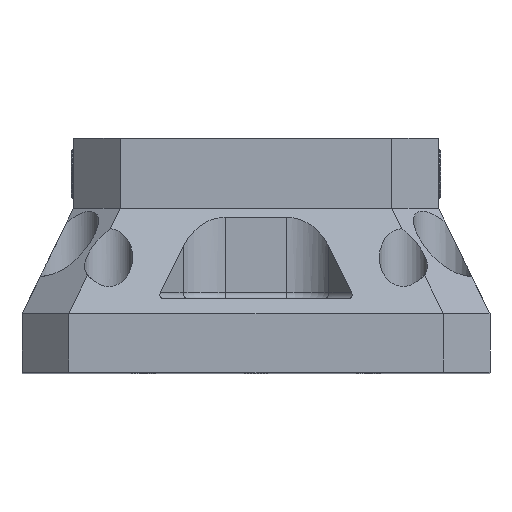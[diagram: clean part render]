
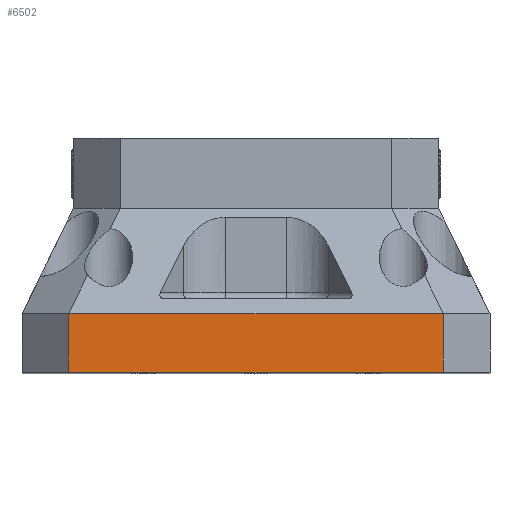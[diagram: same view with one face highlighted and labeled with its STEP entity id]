
A CAD part, top view. The second image highlights one B-rep face of the part: STEP entity #6502.
In plain terms, the highlighted planar face has unit normal (0, 0, 1) as drawn and (-1, 0, 0) by its records, which use the part's own axes.
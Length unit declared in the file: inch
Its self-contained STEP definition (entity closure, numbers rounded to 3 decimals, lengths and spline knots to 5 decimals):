
#1344 = VECTOR ( 'NONE', #39914, 39.37008 ) ;
#1460 = DIRECTION ( 'NONE',  ( 0., 0., -1. ) ) ;
#2497 = VERTEX_POINT ( 'NONE', #24439 ) ;
#3701 = CARTESIAN_POINT ( 'NONE',  ( -7.87402, 0., 3.14961 ) ) ;
#3938 = ORIENTED_EDGE ( 'NONE', *, *, #10786, .T. ) ;
#5785 = CARTESIAN_POINT ( 'NONE',  ( -7.87402, 0.98425, 3.93701 ) ) ;
#6502 = ADVANCED_FACE ( 'NONE', ( #57488 ), #14580, .F. ) ;
#8379 = EDGE_CURVE ( 'NONE', #25458, #2497, #42670, .T. ) ;
#10786 = EDGE_CURVE ( 'NONE', #39514, #66735, #65639, .T. ) ;
#12948 = CARTESIAN_POINT ( 'NONE',  ( -7.87402, 0., 3.93701 ) ) ;
#14580 = PLANE ( 'NONE',  #36556 ) ;
#14899 = CARTESIAN_POINT ( 'NONE',  ( -7.87402, 0., 3.14961 ) ) ;
#20347 = DIRECTION ( 'NONE',  ( 1., 0., 0. ) ) ;
#20423 = VECTOR ( 'NONE', #1460, 39.37008 ) ;
#24439 = CARTESIAN_POINT ( 'NONE',  ( -7.87402, 0., -3.14961 ) ) ;
#25458 = VERTEX_POINT ( 'NONE', #14899 ) ;
#28100 = ORIENTED_EDGE ( 'NONE', *, *, #64400, .T. ) ;
#28108 = VECTOR ( 'NONE', #37866, 39.37008 ) ;
#32630 = EDGE_CURVE ( 'NONE', #66735, #2497, #42541, .T. ) ;
#35685 = ORIENTED_EDGE ( 'NONE', *, *, #8379, .F. ) ;
#36229 = DIRECTION ( 'NONE',  ( 0., -1., 0. ) ) ;
#36556 = AXIS2_PLACEMENT_3D ( 'NONE', #42962, #20347, #60244 ) ;
#37866 = DIRECTION ( 'NONE',  ( 0., 1., 0. ) ) ;
#39514 = VERTEX_POINT ( 'NONE', #59837 ) ;
#39914 = DIRECTION ( 'NONE',  ( 0., 0., -1. ) ) ;
#41776 = CARTESIAN_POINT ( 'NONE',  ( -7.87402, 0.98425, -3.14961 ) ) ;
#41931 = CARTESIAN_POINT ( 'NONE',  ( -7.87402, 0., -3.14961 ) ) ;
#42541 = LINE ( 'NONE', #41931, #71180 ) ;
#42670 = LINE ( 'NONE', #12948, #20423 ) ;
#42962 = CARTESIAN_POINT ( 'NONE',  ( -7.87402, 0., 3.93701 ) ) ;
#54371 = ORIENTED_EDGE ( 'NONE', *, *, #32630, .T. ) ;
#57488 = FACE_OUTER_BOUND ( 'NONE', #57790, .T. ) ;
#57790 = EDGE_LOOP ( 'NONE', ( #3938, #54371, #35685, #28100 ) ) ;
#59837 = CARTESIAN_POINT ( 'NONE',  ( -7.87402, 0.98425, 3.14961 ) ) ;
#60244 = DIRECTION ( 'NONE',  ( 0., 0., -1. ) ) ;
#64400 = EDGE_CURVE ( 'NONE', #25458, #39514, #73651, .T. ) ;
#65639 = LINE ( 'NONE', #5785, #1344 ) ;
#66735 = VERTEX_POINT ( 'NONE', #41776 ) ;
#71180 = VECTOR ( 'NONE', #36229, 39.37008 ) ;
#73651 = LINE ( 'NONE', #3701, #28108 ) ;
